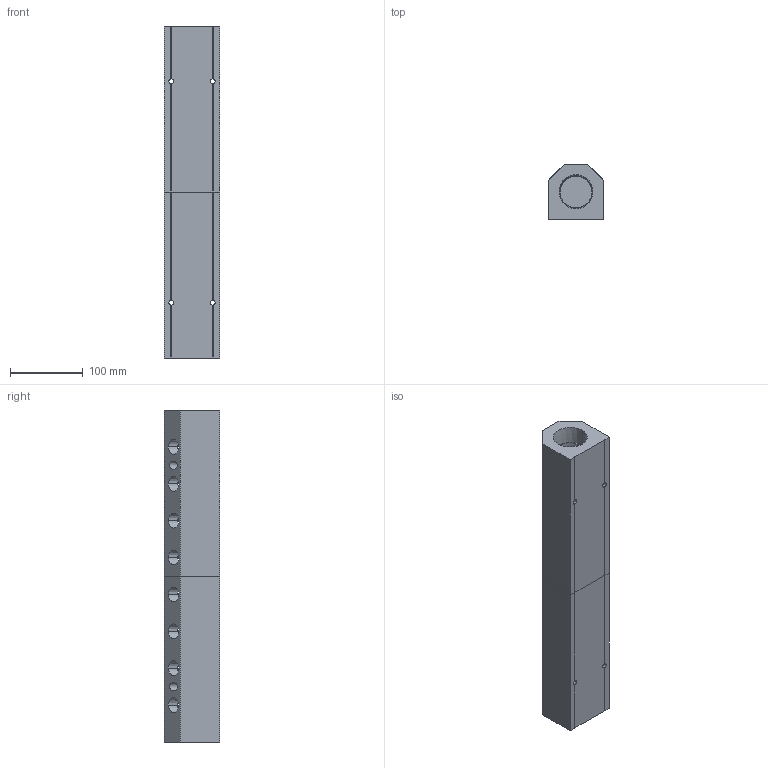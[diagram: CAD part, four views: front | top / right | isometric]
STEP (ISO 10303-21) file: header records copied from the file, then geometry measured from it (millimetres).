
FILE_DESCRIPTION (( 'STEP AP214' ), '1' );
FILE_NAME ('ALM8BCD-N8N24-457RB.step', '2022-02-07T09:39:50', ( '' ), ( '' ), 'SwSTEP 2.0', 'SolidWorks 2020', '' );
FILE_SCHEMA (( 'AUTOMOTIVE_DESIGN' ));
Length unit declared in the file: millimetre
Products named in the file (1): ALM8BCD-N8N24-457RB
Bounding box: 76.2 x 76.2 x 457 mm (x, y, z)
Volume: 1580911.5 mm3; surface area: 228109.6 mm2
Topology: 2 solids, 2 shells, 404 faces, 1114 edges, 740 vertices
Faces by surface type: plane 244, bspline 88, cone 52, cylinder 20
Entity records: 24212 total; most frequent: CARTESIAN_POINT 10715, ORIENTED_EDGE 2228, DIRECTION 1548, EDGE_CURVE 1114, VERTEX_POINT 740, LINE 738, VECTOR 738, EDGE_LOOP 486
